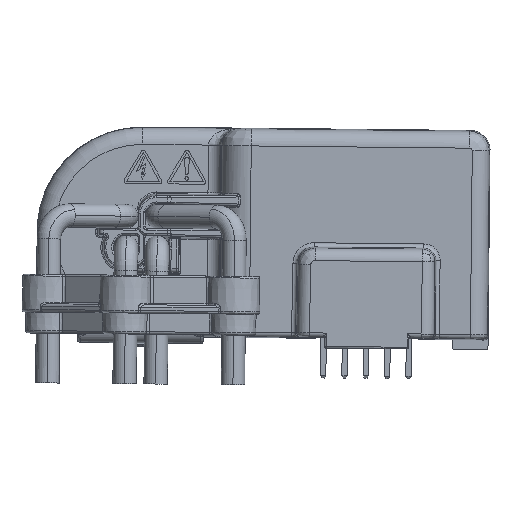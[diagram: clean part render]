
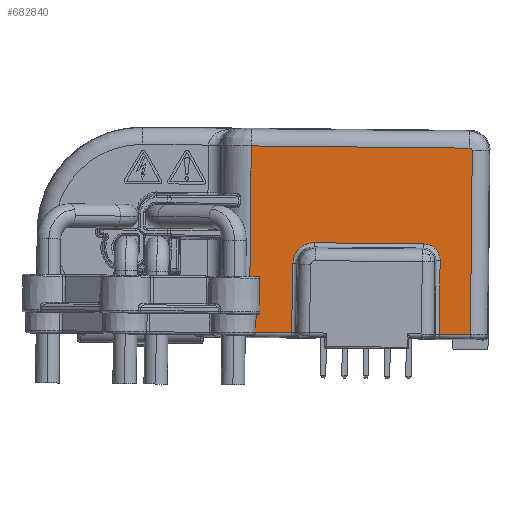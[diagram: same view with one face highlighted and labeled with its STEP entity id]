
A CAD part, left-side view. The second image highlights one B-rep face of the part: STEP entity #682840.
In plain terms, the highlighted planar face has unit normal (-1, 0, 0).
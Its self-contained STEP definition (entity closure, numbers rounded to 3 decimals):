
#3070=CARTESIAN_POINT('',(-10.403,35.901,
3.298));
#3080=VERTEX_POINT('',#3070);
#3110=CARTESIAN_POINT('',(-10.403,35.999,
12.976));
#3120=DIRECTION('',(0.,-0.01,
-1.));
#3130=VECTOR('',#3120,1.);
#3140=LINE('',#3110,#3130);
#3150=CARTESIAN_POINT('',(-10.403,35.99,
12.067));
#3160=VERTEX_POINT('',#3150);
#3170=EDGE_CURVE('',#3160,#3080,#3140,.T.);
#6390=CARTESIAN_POINT('',(-10.403,18.389,
3.948));
#6400=VERTEX_POINT('',#6390);
#6430=CARTESIAN_POINT('',(-10.403,18.389,
3.948));
#6440=CARTESIAN_POINT('',(-10.403,18.389,
3.923));
#6450=CARTESIAN_POINT('',(-10.403,18.389,
3.898));
#6460=CARTESIAN_POINT('',(-10.403,18.4,
3.538));
#6470=CARTESIAN_POINT('',(-10.403,18.478,
3.207));
#6480=CARTESIAN_POINT('',(-10.403,18.74,
2.639));
#6490=CARTESIAN_POINT('',(-10.403,18.906,
2.4));
#6500=CARTESIAN_POINT('',(-10.403,19.108,
2.195));
#6510=CARTESIAN_POINT('',(-10.403,19.398,
1.903));
#6520=CARTESIAN_POINT('',(-10.403,19.756,
1.687));
#6530=CARTESIAN_POINT('',(-10.403,20.354,
1.504));
#6540=CARTESIAN_POINT('',(-10.403,20.566,
1.468));
#6550=CARTESIAN_POINT('',(-10.403,20.804,
1.459));
#6560=CARTESIAN_POINT('',(-10.403,20.829,
1.458));
#6570=CARTESIAN_POINT('',(-10.403,20.854,
1.458));
#6580=B_SPLINE_CURVE_WITH_KNOTS('',3,(#6430,#6440,#6450,#6460,#6470,
#6480,#6490,#6500,#6510,#6520,#6530,#6540,#6550,#6560,#6570),
.UNSPECIFIED.,.F.,.F.,(4,2,2,3,2,2,4),(0.,0.068,
0.977,1.753,2.862,3.441,
3.508),.UNSPECIFIED.);
#6590=CARTESIAN_POINT('',(-10.403,20.854,
1.458));
#6600=VERTEX_POINT('',#6590);
#6610=EDGE_CURVE('',#6400,#6600,#6580,.T.);
#6790=CARTESIAN_POINT('',(-10.403,18.389,
12.976));
#6800=DIRECTION('',(0.,0.,1.));
#6810=VECTOR('',#6800,1.);
#6820=LINE('',#6790,#6810);
#6830=CARTESIAN_POINT('',(-10.403,18.389,
12.245));
#6840=VERTEX_POINT('',#6830);
#6850=EDGE_CURVE('',#6400,#6840,#6820,.T.);
#8250=CARTESIAN_POINT('',(-10.403,33.889,
1.326));
#8260=VERTEX_POINT('',#8250);
#8290=CARTESIAN_POINT('',(-10.403,33.889,
1.326));
#8300=CARTESIAN_POINT('',(-10.403,33.914,
1.325));
#8310=CARTESIAN_POINT('',(-10.403,33.94,
1.326));
#8320=CARTESIAN_POINT('',(-10.403,34.232,
1.334));
#8330=CARTESIAN_POINT('',(-10.403,34.494,
1.394));
#8340=CARTESIAN_POINT('',(-10.403,34.948,
1.601));
#8350=CARTESIAN_POINT('',(-10.403,35.139,
1.732));
#8360=CARTESIAN_POINT('',(-10.403,35.304,
1.894));
#8370=CARTESIAN_POINT('',(-10.403,35.539,
2.124));
#8380=CARTESIAN_POINT('',(-10.403,35.713,
2.41));
#8390=CARTESIAN_POINT('',(-10.403,35.861,
2.886));
#8400=CARTESIAN_POINT('',(-10.403,35.891,
3.052));
#8410=CARTESIAN_POINT('',(-10.403,35.9,
3.246));
#8420=CARTESIAN_POINT('',(-10.403,35.901,
3.272));
#8430=CARTESIAN_POINT('',(-10.403,35.901,
3.298));
#8440=B_SPLINE_CURVE_WITH_KNOTS('',3,(#8290,#8300,#8310,#8320,#8330,
#8340,#8350,#8360,#8370,#8380,#8390,#8400,#8410,#8420,#8430),
.UNSPECIFIED.,.F.,.F.,(4,2,2,3,2,2,4),(0.,0.068,
0.769,1.373,2.235,2.679,
2.747),.UNSPECIFIED.);
#8450=EDGE_CURVE('',#8260,#3080,#8440,.T.);
#635880=CARTESIAN_POINT('',(-10.403,39.687,
12.029));
#635890=VERTEX_POINT('',#635880);
#650970=CARTESIAN_POINT('',(-10.403,13.137,
-9.922));
#650980=VERTEX_POINT('',#650970);
#651010=CARTESIAN_POINT('',(-10.403,13.369,
12.976));
#651020=DIRECTION('',(0.,0.01,
1.));
#651030=VECTOR('',#651020,1.);
#651040=LINE('',#651010,#651030);
#651050=CARTESIAN_POINT('',(-10.403,13.362,
12.297));
#651060=VERTEX_POINT('',#651050);
#651070=EDGE_CURVE('',#650980,#651060,#651040,.T.);
#671640=CARTESIAN_POINT('',(-10.403,7.655,
12.355));
#671650=DIRECTION('',(0.,1.,
-0.01));
#671660=VECTOR('',#671650,1.);
#671670=LINE('',#671640,#671660);
#671680=EDGE_CURVE('',#3160,#635890,#671670,.T.);
#673060=CARTESIAN_POINT('',(-10.403,7.655,
12.355));
#673070=DIRECTION('',(0.,1.,
-0.01));
#673080=VECTOR('',#673070,1.);
#673090=LINE('',#673060,#673080);
#673100=EDGE_CURVE('',#651060,#6840,#673090,.T.);
#682300=CARTESIAN_POINT('',(-10.403,7.655,
12.976));
#682310=DIRECTION('',(1.,0.,0.));
#682320=DIRECTION('',(0.,-1.,0.));
#682330=AXIS2_PLACEMENT_3D('',#682300,#682310,#682320);
#682340=PLANE('',#682330);
#682350=CARTESIAN_POINT('',(-10.403,7.655,
-9.866));
#682360=DIRECTION('',(0.,1.,
-0.01));
#682370=VECTOR('',#682360,1.);
#682380=LINE('',#682350,#682370);
#682390=CARTESIAN_POINT('',(-10.403,39.162,
-10.186));
#682400=VERTEX_POINT('',#682390);
#682410=EDGE_CURVE('',#650980,#682400,#682380,.T.);
#682420=ORIENTED_EDGE('',*,*,#682410,.F.);
#682430=CARTESIAN_POINT('',(-10.403,39.162,
-10.186));
#682440=CARTESIAN_POINT('',(-10.403,39.183,
-10.187));
#682450=CARTESIAN_POINT('',(-10.403,39.205,
-10.185));
#682460=CARTESIAN_POINT('',(-10.403,39.248,
-10.175));
#682470=CARTESIAN_POINT('',(-10.403,39.27,
-10.168));
#682480=CARTESIAN_POINT('',(-10.403,39.321,
-10.145));
#682490=CARTESIAN_POINT('',(-10.403,39.35,
-10.125));
#682500=CARTESIAN_POINT('',(-10.403,39.375,
-10.101));
#682510=CARTESIAN_POINT('',(-10.403,39.41,
-10.066));
#682520=CARTESIAN_POINT('',(-10.403,39.436,
-10.023));
#682530=CARTESIAN_POINT('',(-10.403,39.453,
-9.968));
#682540=CARTESIAN_POINT('',(-10.403,39.455,
-9.961));
#682550=CARTESIAN_POINT('',(-10.403,39.462,
-9.933));
#682560=CARTESIAN_POINT('',(-10.403,39.464,
-9.911));
#682570=CARTESIAN_POINT('',(-10.403,39.465,
-9.889));
#682580=B_SPLINE_CURVE_WITH_KNOTS('',3,(#682430,#682440,#682450,#682460,
#682470,#682480,#682490,#682500,#682510,#682520,#682530,#682540,#682550,
#682560,#682570),.UNSPECIFIED.,.F.,.F.,(4,2,2,3,2,2,4),(0.,
0.282,0.577,1.023,1.669,
1.764,2.047),.UNSPECIFIED.);
#682590=CARTESIAN_POINT('',(-10.403,39.465,
-9.889));
#682600=VERTEX_POINT('',#682590);
#682610=EDGE_CURVE('',#682400,#682600,#682580,.T.);
#682620=ORIENTED_EDGE('',*,*,#682610,.F.);
#682630=CARTESIAN_POINT('',(-10.403,39.697,
12.976));
#682640=DIRECTION('',(0.,-0.01,
-1.));
#682650=VECTOR('',#682640,1.);
#682660=LINE('',#682630,#682650);
#682670=EDGE_CURVE('',#635890,#682600,#682660,.T.);
#682680=ORIENTED_EDGE('',*,*,#682670,.T.);
#682690=ORIENTED_EDGE('',*,*,#671680,.T.);
#682700=ORIENTED_EDGE('',*,*,#3170,.F.);
#682710=ORIENTED_EDGE('',*,*,#8450,.T.);
#682720=CARTESIAN_POINT('',(-10.403,7.655,
1.592));
#682730=DIRECTION('',(0.,1.,
-0.01));
#682740=VECTOR('',#682730,1.);
#682750=LINE('',#682720,#682740);
#682760=EDGE_CURVE('',#6600,#8260,#682750,.T.);
#682770=ORIENTED_EDGE('',*,*,#682760,.T.);
#682780=ORIENTED_EDGE('',*,*,#6610,.T.);
#682790=ORIENTED_EDGE('',*,*,#6850,.F.);
#682800=ORIENTED_EDGE('',*,*,#673100,.T.);
#682810=ORIENTED_EDGE('',*,*,#651070,.T.);
#682820=EDGE_LOOP('',(#682810,#682800,#682790,#682780,#682770,#682710,
#682700,#682690,#682680,#682620,#682420));
#682830=FACE_OUTER_BOUND('',#682820,.T.);
#682840=ADVANCED_FACE('',(#682830),#682340,.F.);
